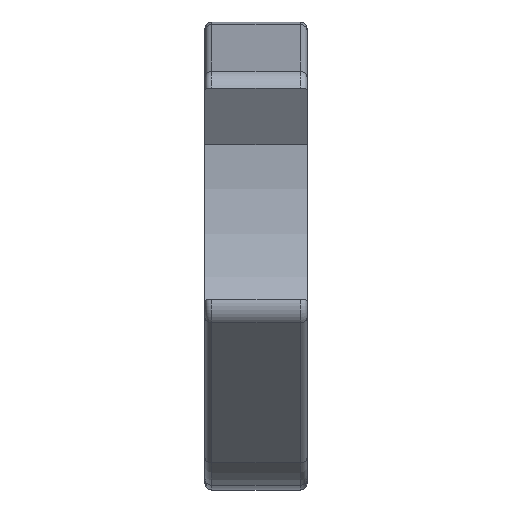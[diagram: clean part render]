
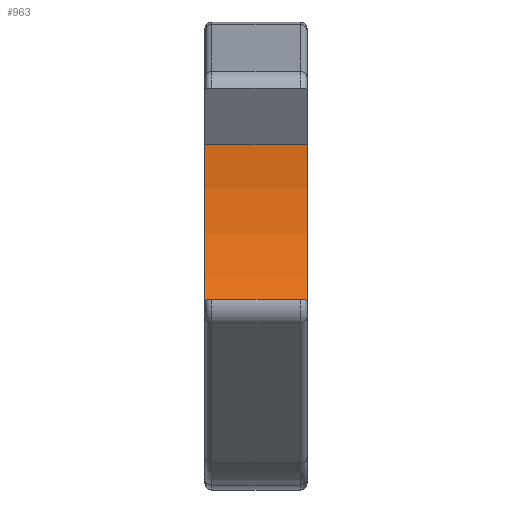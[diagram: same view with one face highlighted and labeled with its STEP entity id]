
A CAD part, left-side view. The second image highlights one B-rep face of the part: STEP entity #963.
In plain terms, the highlighted cylindrical face has radius 22.932 mm (diameter 45.864 mm), a partial arc.
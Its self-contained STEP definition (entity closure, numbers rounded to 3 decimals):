
#46 = CARTESIAN_POINT ( 'NONE',  ( -5.247, 3.75, 1.406 ) ) ;
#59 = DIRECTION ( 'NONE',  ( 0., 0., -1. ) ) ;
#105 = EDGE_CURVE ( 'NONE', #1516, #1384, #992, .T. ) ;
#239 = DIRECTION ( 'NONE',  ( 0., -1., 0. ) ) ;
#251 = LINE ( 'NONE', #453, #1137 ) ;
#395 = EDGE_CURVE ( 'NONE', #1354, #1205, #251, .T. ) ;
#401 = CARTESIAN_POINT ( 'NONE',  ( 17.58, -3.75, 3.598 ) ) ;
#453 = CARTESIAN_POINT ( 'NONE',  ( 13.426, 3.75, -11.906 ) ) ;
#530 = AXIS2_PLACEMENT_3D ( 'NONE', #814, #614, #1930 ) ;
#614 = DIRECTION ( 'NONE',  ( 0., -1., 0. ) ) ;
#804 = CARTESIAN_POINT ( 'NONE',  ( 17.58, 3.75, 3.598 ) ) ;
#814 = CARTESIAN_POINT ( 'NONE',  ( -5.247, 3.75, 1.406 ) ) ;
#955 = ORIENTED_EDGE ( 'NONE', *, *, #1949, .T. ) ;
#963 = ADVANCED_FACE ( 'NONE', ( #1747 ), #1366, .F. ) ;
#992 = LINE ( 'NONE', #804, #1768 ) ;
#1137 = VECTOR ( 'NONE', #239, 1000. ) ;
#1152 = DIRECTION ( 'NONE',  ( 0., -1., 0. ) ) ;
#1205 = VERTEX_POINT ( 'NONE', #1431 ) ;
#1208 = ORIENTED_EDGE ( 'NONE', *, *, #105, .F. ) ;
#1228 = EDGE_LOOP ( 'NONE', ( #955, #1208, #1644, #1395 ) ) ;
#1237 = DIRECTION ( 'NONE',  ( 0., -1., 0. ) ) ;
#1354 = VERTEX_POINT ( 'NONE', #1707 ) ;
#1366 = CYLINDRICAL_SURFACE ( 'NONE', #2425, 22.932 ) ;
#1384 = VERTEX_POINT ( 'NONE', #401 ) ;
#1395 = ORIENTED_EDGE ( 'NONE', *, *, #395, .T. ) ;
#1407 = EDGE_CURVE ( 'NONE', #1354, #1516, #1908, .T. ) ;
#1431 = CARTESIAN_POINT ( 'NONE',  ( 13.426, -3.75, -11.906 ) ) ;
#1516 = VERTEX_POINT ( 'NONE', #1982 ) ;
#1644 = ORIENTED_EDGE ( 'NONE', *, *, #1407, .F. ) ;
#1652 = DIRECTION ( 'NONE',  ( 0., 0., 1. ) ) ;
#1707 = CARTESIAN_POINT ( 'NONE',  ( 13.426, 3.75, -11.906 ) ) ;
#1747 = FACE_OUTER_BOUND ( 'NONE', #1228, .T. ) ;
#1768 = VECTOR ( 'NONE', #1152, 1000. ) ;
#1908 = CIRCLE ( 'NONE', #530, 22.932 ) ;
#1930 = DIRECTION ( 'NONE',  ( 0., 0., 1. ) ) ;
#1949 = EDGE_CURVE ( 'NONE', #1205, #1384, #2439, .T. ) ;
#1982 = CARTESIAN_POINT ( 'NONE',  ( 17.58, 3.75, 3.598 ) ) ;
#2116 = DIRECTION ( 'NONE',  ( 0., -1., 0. ) ) ;
#2228 = CARTESIAN_POINT ( 'NONE',  ( -5.247, -3.75, 1.406 ) ) ;
#2364 = AXIS2_PLACEMENT_3D ( 'NONE', #2228, #1237, #1652 ) ;
#2425 = AXIS2_PLACEMENT_3D ( 'NONE', #46, #2116, #59 ) ;
#2439 = CIRCLE ( 'NONE', #2364, 22.932 ) ;
